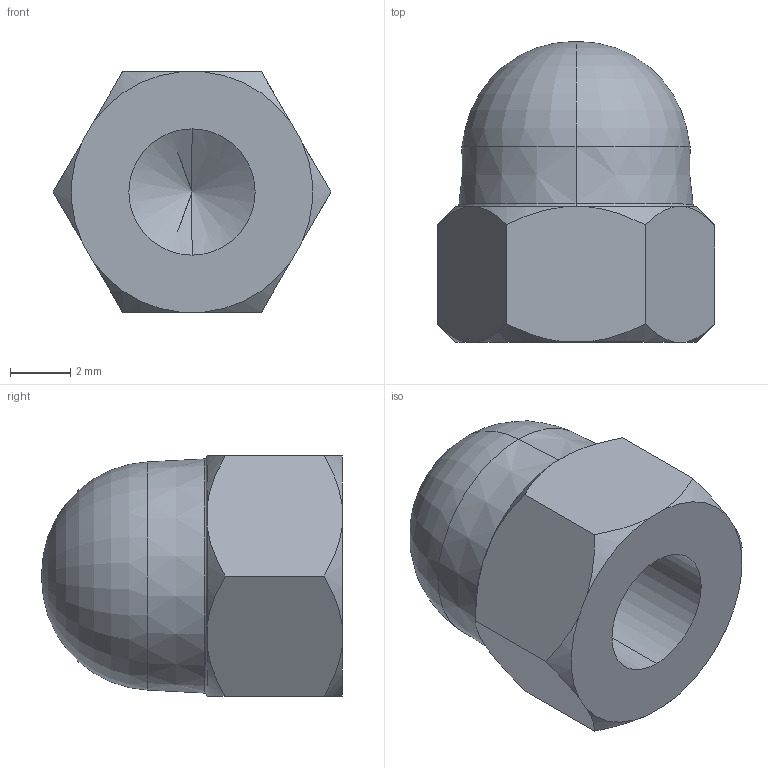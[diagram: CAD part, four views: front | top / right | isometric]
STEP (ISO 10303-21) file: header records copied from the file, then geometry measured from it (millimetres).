
FILE_DESCRIPTION (( 'STEP AP203' ), '1' );
FILE_NAME ('SAGOTOOL.P.TAN_BAU_M5.STEP', '2026-07-09T03:09:57', ( '' ), ( '' ), 'SwSTEP 2.0', 'SolidWorks 2020', '' );
FILE_SCHEMA (( 'CONFIG_CONTROL_DESIGN' ));
Length unit declared in the file: millimetre
Products named in the file (1): SAGOTOOL.P.TAN_BAU_M5
Bounding box: 9.24 x 10 x 8 mm (x, y, z)
Volume: 334.9 mm3; surface area: 414.5 mm2
Topology: 1 solids, 1 shells, 31 faces, 78 edges, 49 vertices
Faces by surface type: cone 16, plane 9, torus 4, cylinder 2
Entity records: 1083 total; most frequent: CARTESIAN_POINT 293, ORIENTED_EDGE 152, DIRECTION 144, EDGE_CURVE 76, AXIS2_PLACEMENT_3D 60, VERTEX_POINT 49, EDGE_LOOP 33, FACE_OUTER_BOUND 31
